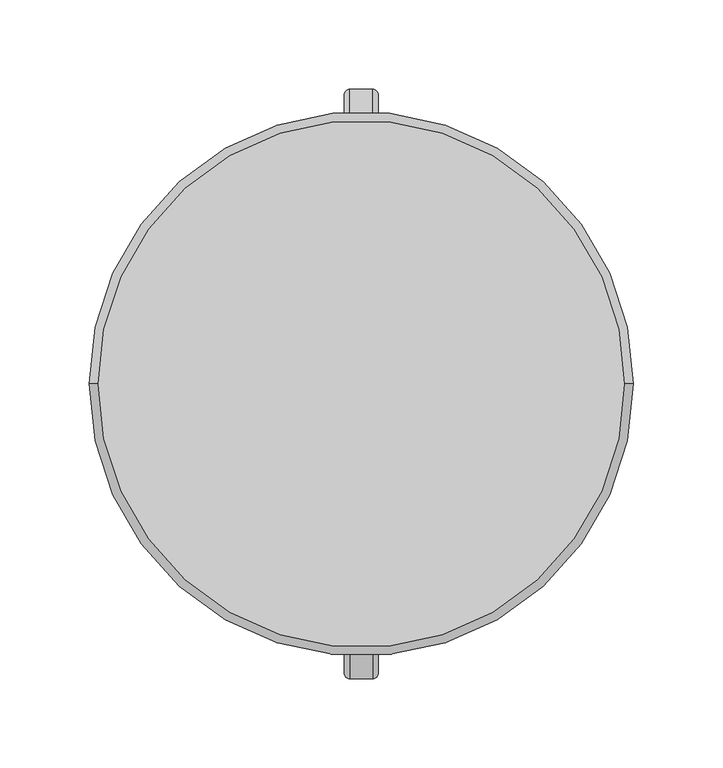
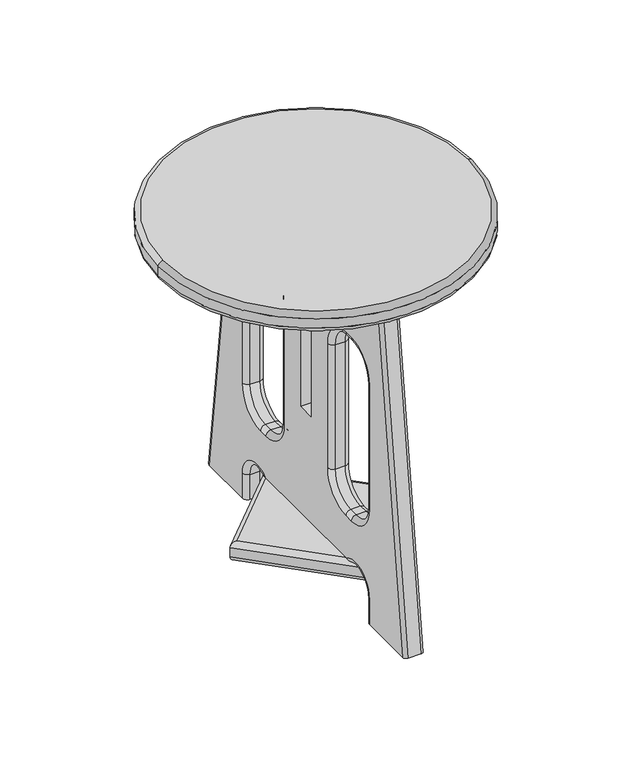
"""IFC4 building model written with IfcOpenShell, lengths in millimetres: furniture geometry, SSL-Childcraft_Outdoor-Stool : 2161356."""

from ifc_helpers import new_model, si_unit, point, frame, origin, origin_with_axes, place, context, project, spatial, polyline, circle_curve, ellipse_curve, trimmed, source, transform, mapped, element, save
from ifc_brep_helpers import plane_surface, cylinder_surface, revolved_surface, extruded_surface, spline_surface, advanced_brep


def furniture_00084a0a(model_context):
    return source(origin(), model_context, "Body", "AdvancedBrep", [
        advanced_brep(
        [(6.35, 122.2375, 336.55), (9.525, 119.0625, 336.55), (9.525, 161.9274937, 0.0), (6.3524937, 165.1, 0.0), (-6.35, 122.2375, 336.55), (-6.35, 165.1, 0.0), (-9.525, 119.0625, 336.55), (-9.525, 161.925, 0.0), (4.7625, -41.2877, 117.475), (4.7625, -66.675, 92.0877), (9.525, -66.675, 87.3252), (9.525, -36.5252, 117.475), (-4.7625, -41.2877, 117.475), (-4.7625, -66.675, 92.0877), (-9.525, -36.5252, 117.475), (-9.525, -66.675, 87.3252), (9.525, -36.5252, 244.475), (4.7625, -41.2877, 244.475), (-4.7625, -41.2877, 244.475), (-9.525, -36.5252, 244.475), (9.525, -66.675, 274.6248), (4.7625, -66.675, 269.8623), (-4.7625, -66.675, 269.8623), (-9.525, -66.675, 274.6248), (9.525, -76.1873, 274.6248), (4.7625, -76.1873, 269.8623), (-4.7625, -76.1873, 269.8623), (-9.525, -76.1873, 274.6248), (9.525, -106.3498, 244.4623), (4.7625, -101.5873, 244.4623), (-4.7625, -101.5873, 244.4623), (-9.525, -106.3498, 244.4623), (9.525, -106.3498, 117.475), (4.7625, -101.5873, 117.475), (-4.7625, -101.5873, 117.475), (-9.525, -106.3498, 117.475), (9.525, -76.2, 87.3252), (4.7625, -76.2, 92.0877), (-4.7625, -76.2, 92.0877), (-9.525, -76.2, 87.3252), (4.7625, 101.5873, 117.475), (4.7625, 76.2, 92.0877), (9.525, 76.2, 87.3252), (9.525, 106.3498, 117.475), (-4.7625, 101.5873, 117.475), (-4.7625, 76.2, 92.0877), (-9.525, 106.3498, 117.475), (-9.525, 76.2, 87.3252), (9.525, 106.3498, 244.4623), (4.7625, 101.5873, 244.4623), (-4.7625, 101.5873, 244.4623), (-9.525, 106.3498, 244.4623), (9.525, 76.1873, 274.6248), (4.7625, 76.1873, 269.8623), (-4.7625, 76.1873, 269.8623), (-9.525, 76.1873, 274.6248), (9.525, 66.675, 274.6248), (4.7625, 66.675, 269.8623), (-4.7625, 66.675, 269.8623), (-9.525, 66.675, 274.6248), (9.525, 36.5252, 244.475), (4.7625, 41.2877, 244.475), (-4.7625, 41.2877, 244.475), (-9.525, 36.5252, 244.475), (9.525, 36.5252, 117.475), (4.7625, 41.2877, 117.475), (-4.7625, 41.2877, 117.475), (-9.525, 36.5252, 117.475), (9.525, 66.675, 87.3252), (4.7625, 66.675, 92.0877), (-4.7625, 66.675, 92.0877), (-9.525, 66.675, 87.3252), (4.7625, 101.5873, 0.0), (9.525, 106.3498, 0.0), (9.525, 106.3498, 25.4), (4.7625, 101.5873, 25.4), (-4.7625, 101.5873, 0.0), (-4.7625, 101.5873, 25.4), (-9.525, 106.3498, 0.0), (-9.525, 106.3498, 25.4), (-9.525, 68.27012, 44.43984), (-4.7625, 71.12762, 40.62984), (4.7625, 71.12762, 40.62984), (9.525, 68.27012, 44.43984), (9.525, -106.3498, 0.0), (4.7625, -101.5873, 0.0), (4.7625, -101.5873, 25.4), (9.525, -106.3498, 25.4), (-4.7625, -101.5873, 0.0), (-4.7625, -101.5873, 25.4), (-9.525, -106.3498, 0.0), (-9.525, -106.3498, 25.4), (9.525, -68.27012, 44.43984), (4.7625, -71.12762, 40.62984), (-4.7625, -71.12762, 40.62984), (-9.525, -68.27012, 44.43984), (9.525, 101.6, 336.55), (9.525, 82.55, 317.5), (9.525, 9.525, 317.5), (9.525, 9.525, 152.4), (9.525, -9.525, 152.4), (9.525, -9.525, 317.5), (9.525, -82.55, 317.5), (9.525, -101.6, 336.55), (9.525, -119.0625, 336.55), (9.525, -161.925, 0.0), (-9.525, -161.9274937, 0.0), (-9.525, -119.0625, 336.55), (-9.525, -101.6, 336.55), (-9.525, -82.55, 317.5), (-9.525, -9.525, 317.5), (-9.525, -9.525, 152.4), (-9.525, 9.525, 152.4), (-9.525, 9.525, 317.5), (-9.525, 82.55, 317.5), (-9.525, 101.6, 336.55), (-6.35, -122.2375, 336.55), (6.35, -122.2375, 336.55), (6.35, -165.1, 0.0), (-6.3524937, -165.1, 0.0)],
        [
            (0, 1, circle_curve(frame((6.35, 119.0625, 336.55), z_axis=(0.0, 0.0, -1.0), x_axis=(1.0, 0.0, 0.0)), 3.175)),
            (1, 2),
            (2, 3, circle_curve(frame((6.3524937, 161.9274937, 0.0), z_axis=(0.0, 0.0, 1.0), x_axis=(1.0, 0.0, 0.0)), 3.1725063)),
            (3, 0),
            (4, 0),
            (3, 5),
            (5, 4),
            (6, 4, circle_curve(frame((-6.35, 119.0625, 336.55), z_axis=(0.0, 0.0, -1.0), x_axis=(1.0, 0.0, 0.0)), 3.175)),
            (5, 7, circle_curve(frame((-6.35, 161.925, 0.0), z_axis=(0.0, 0.0, 1.0), x_axis=(1.0, 0.0, 0.0)), 3.175)),
            (7, 6),
            (8, 9, circle_curve(frame((4.7625, -66.675, 117.475), z_axis=(-1.0, 0.0, 0.0), x_axis=(0.0, 0.0, -1.0)), 25.3873)),
            (9, 10, circle_curve(frame((4.7625, -66.675, 87.3252), z_axis=(0.0, 1.0, 0.0), x_axis=(0.0, 0.0, 1.0)), 4.7625)),
            (10, 11, circle_curve(frame((9.525, -66.675, 117.475), z_axis=(1.0, 0.0, 0.0), x_axis=(0.0, 0.0, -1.0)), 30.1498)),
            (11, 8, circle_curve(frame((4.7625, -36.5252, 117.475), z_axis=(0.0, 0.0, -1.0), x_axis=(0.0, -1.0, 0.0)), 4.7625)),
            (8, 12),
            (12, 13, circle_curve(frame((-4.7625, -66.675, 117.475), z_axis=(-1.0, 0.0, 0.0), x_axis=(0.0, 0.0, -1.0)), 25.3873)),
            (13, 9),
            (12, 14, circle_curve(frame((-4.7625, -36.5252, 117.475), z_axis=(0.0, 0.0, -1.0), x_axis=(0.0, -1.0, 0.0)), 4.7625)),
            (14, 15, circle_curve(frame((-9.525, -66.675, 117.475), z_axis=(-1.0, 0.0, 0.0), x_axis=(0.0, 0.0, -1.0)), 30.1498)),
            (15, 13, circle_curve(frame((-4.7625, -66.675, 87.3252), z_axis=(0.0, 1.0, 0.0), x_axis=(0.0, 0.0, 1.0)), 4.7625)),
            (11, 16),
            (16, 17, circle_curve(frame((4.7625, -36.5252, 244.475), z_axis=(0.0, 0.0, -1.0), x_axis=(0.0, -1.0, 0.0)), 4.7625)),
            (17, 8),
            (17, 18),
            (18, 12),
            (18, 19, circle_curve(frame((-4.7625, -36.5252, 244.475), z_axis=(0.0, 0.0, -1.0), x_axis=(0.0, -1.0, 0.0)), 4.7625)),
            (19, 14),
            (16, 20, circle_curve(frame((9.525, -66.675, 244.475), z_axis=(1.0, 0.0, 0.0), x_axis=(0.0, 1.0, 0.0)), 30.1498)),
            (20, 21, circle_curve(frame((4.7625, -66.675, 274.6248), z_axis=(0.0, 1.0, 0.0), x_axis=(0.0, 0.0, -1.0)), 4.7625)),
            (21, 17, circle_curve(frame((4.7625, -66.675, 244.475), z_axis=(-1.0, 0.0, 0.0), x_axis=(0.0, 1.0, 0.0)), 25.3873)),
            (21, 22),
            (22, 18, circle_curve(frame((-4.7625, -66.675, 244.475), z_axis=(-1.0, 0.0, 0.0), x_axis=(0.0, 1.0, 0.0)), 25.3873)),
            (22, 23, circle_curve(frame((-4.7625, -66.675, 274.6248), z_axis=(0.0, 1.0, 0.0), x_axis=(0.0, 0.0, -1.0)), 4.7625)),
            (23, 19, circle_curve(frame((-9.525, -66.675, 244.475), z_axis=(-1.0, 0.0, 0.0), x_axis=(0.0, 1.0, 0.0)), 30.1498)),
            (20, 24),
            (24, 25, circle_curve(frame((4.7625, -76.1873, 274.6248), z_axis=(0.0, 1.0, 0.0), x_axis=(0.0, 0.0, -1.0)), 4.7625)),
            (25, 21),
            (25, 26),
            (26, 22),
            (26, 27, circle_curve(frame((-4.7625, -76.1873, 274.6248), z_axis=(0.0, 1.0, 0.0), x_axis=(0.0, 0.0, -1.0)), 4.7625)),
            (27, 23),
            (24, 28, circle_curve(frame((9.525, -76.1873, 244.4623), z_axis=(1.0, 0.0, 0.0), x_axis=(0.0, 0.0, 1.0)), 30.1625)),
            (28, 29, circle_curve(frame((4.7625, -106.3498, 244.4623), z_axis=(0.0, 0.0, 1.0), x_axis=(0.0, 1.0, 0.0)), 4.7625)),
            (29, 25, circle_curve(frame((4.7625, -76.1873, 244.4623), z_axis=(-1.0, 0.0, 0.0), x_axis=(0.0, 0.0, 1.0)), 25.4)),
            (29, 30),
            (30, 26, circle_curve(frame((-4.7625, -76.1873, 244.4623), z_axis=(-1.0, 0.0, 0.0), x_axis=(0.0, 0.0, 1.0)), 25.4)),
            (30, 31, circle_curve(frame((-4.7625, -106.3498, 244.4623), z_axis=(0.0, 0.0, 1.0), x_axis=(0.0, 1.0, 0.0)), 4.7625)),
            (31, 27, circle_curve(frame((-9.525, -76.1873, 244.4623), z_axis=(-1.0, 0.0, 0.0), x_axis=(0.0, 0.0, 1.0)), 30.1625)),
            (28, 32),
            (32, 33, circle_curve(frame((4.7625, -106.3498, 117.475), z_axis=(0.0, 0.0, 1.0), x_axis=(0.0, 1.0, 0.0)), 4.7625)),
            (33, 29),
            (33, 34),
            (34, 30),
            (34, 35, circle_curve(frame((-4.7625, -106.3498, 117.475), z_axis=(0.0, 0.0, 1.0), x_axis=(0.0, 1.0, 0.0)), 4.7625)),
            (35, 31),
            (32, 36, circle_curve(frame((9.525, -76.2, 117.475), z_axis=(1.0, 0.0, 0.0), x_axis=(0.0, -1.0, 0.0)), 30.1498)),
            (36, 37, circle_curve(frame((4.7625, -76.2, 87.3252), z_axis=(0.0, -1.0, 0.0), x_axis=(0.0, 0.0, 1.0)), 4.7625)),
            (37, 33, circle_curve(frame((4.7625, -76.2, 117.475), z_axis=(-1.0, 0.0, 0.0), x_axis=(0.0, -1.0, 0.0)), 25.3873)),
            (37, 38),
            (38, 34, circle_curve(frame((-4.7625, -76.2, 117.475), z_axis=(-1.0, 0.0, 0.0), x_axis=(0.0, -1.0, 0.0)), 25.3873)),
            (38, 39, circle_curve(frame((-4.7625, -76.2, 87.3252), z_axis=(0.0, -1.0, 0.0), x_axis=(0.0, 0.0, 1.0)), 4.7625)),
            (39, 35, circle_curve(frame((-9.525, -76.2, 117.475), z_axis=(-1.0, 0.0, 0.0), x_axis=(0.0, -1.0, 0.0)), 30.1498)),
            (9, 37),
            (36, 10),
            (13, 38),
            (15, 39),
            (40, 41, circle_curve(frame((4.7625, 76.2, 117.475), z_axis=(-1.0, 0.0, 0.0), x_axis=(0.0, 0.0, -1.0)), 25.3873)),
            (41, 42, circle_curve(frame((4.7625, 76.2, 87.3252), z_axis=(0.0, 1.0, 0.0), x_axis=(0.0, 0.0, 1.0)), 4.7625)),
            (42, 43, circle_curve(frame((9.525, 76.2, 117.475), z_axis=(1.0, 0.0, 0.0), x_axis=(0.0, 0.0, -1.0)), 30.1498)),
            (43, 40, circle_curve(frame((4.7625, 106.3498, 117.475), z_axis=(0.0, 0.0, -1.0), x_axis=(0.0, -1.0, 0.0)), 4.7625)),
            (40, 44),
            (44, 45, circle_curve(frame((-4.7625, 76.2, 117.475), z_axis=(-1.0, 0.0, 0.0), x_axis=(0.0, 0.0, -1.0)), 25.3873)),
            (45, 41),
            (44, 46, circle_curve(frame((-4.7625, 106.3498, 117.475), z_axis=(0.0, 0.0, -1.0), x_axis=(0.0, -1.0, 0.0)), 4.7625)),
            (46, 47, circle_curve(frame((-9.525, 76.2, 117.475), z_axis=(-1.0, 0.0, 0.0), x_axis=(0.0, 0.0, -1.0)), 30.1498)),
            (47, 45, circle_curve(frame((-4.7625, 76.2, 87.3252), z_axis=(0.0, 1.0, 0.0), x_axis=(0.0, 0.0, 1.0)), 4.7625)),
            (43, 48),
            (48, 49, circle_curve(frame((4.7625, 106.3498, 244.4623), z_axis=(0.0, 0.0, -1.0), x_axis=(0.0, -1.0, 0.0)), 4.7625)),
            (49, 40),
            (49, 50),
            (50, 44),
            (50, 51, circle_curve(frame((-4.7625, 106.3498, 244.4623), z_axis=(0.0, 0.0, -1.0), x_axis=(0.0, -1.0, 0.0)), 4.7625)),
            (51, 46),
            (48, 52, circle_curve(frame((9.525, 76.1873, 244.4623), z_axis=(1.0, 0.0, 0.0), x_axis=(0.0, 1.0, 0.0)), 30.1625)),
            (52, 53, circle_curve(frame((4.7625, 76.1873, 274.6248), z_axis=(0.0, 1.0, 0.0), x_axis=(0.0, 0.0, -1.0)), 4.7625)),
            (53, 49, circle_curve(frame((4.7625, 76.1873, 244.4623), z_axis=(-1.0, 0.0, 0.0), x_axis=(0.0, 1.0, 0.0)), 25.4)),
            (53, 54),
            (54, 50, circle_curve(frame((-4.7625, 76.1873, 244.4623), z_axis=(-1.0, 0.0, 0.0), x_axis=(0.0, 1.0, 0.0)), 25.4)),
            (54, 55, circle_curve(frame((-4.7625, 76.1873, 274.6248), z_axis=(0.0, 1.0, 0.0), x_axis=(0.0, 0.0, -1.0)), 4.7625)),
            (55, 51, circle_curve(frame((-9.525, 76.1873, 244.4623), z_axis=(-1.0, 0.0, 0.0), x_axis=(0.0, 1.0, 0.0)), 30.1625)),
            (52, 56),
            (56, 57, circle_curve(frame((4.7625, 66.675, 274.6248), z_axis=(0.0, 1.0, 0.0), x_axis=(0.0, 0.0, -1.0)), 4.7625)),
            (57, 53),
            (57, 58),
            (58, 54),
            (58, 59, circle_curve(frame((-4.7625, 66.675, 274.6248), z_axis=(0.0, 1.0, 0.0), x_axis=(0.0, 0.0, -1.0)), 4.7625)),
            (59, 55),
            (56, 60, circle_curve(frame((9.525, 66.675, 244.475), z_axis=(1.0, 0.0, 0.0), x_axis=(0.0, 0.0, 1.0)), 30.1498)),
            (60, 61, circle_curve(frame((4.7625, 36.5252, 244.475), z_axis=(0.0, 0.0, 1.0), x_axis=(0.0, 1.0, 0.0)), 4.7625)),
            (61, 57, circle_curve(frame((4.7625, 66.675, 244.475), z_axis=(-1.0, 0.0, 0.0), x_axis=(0.0, 0.0, 1.0)), 25.3873)),
            (61, 62),
            (62, 58, circle_curve(frame((-4.7625, 66.675, 244.475), z_axis=(-1.0, 0.0, 0.0), x_axis=(0.0, 0.0, 1.0)), 25.3873)),
            (62, 63, circle_curve(frame((-4.7625, 36.5252, 244.475), z_axis=(0.0, 0.0, 1.0), x_axis=(0.0, 1.0, 0.0)), 4.7625)),
            (63, 59, circle_curve(frame((-9.525, 66.675, 244.475), z_axis=(-1.0, 0.0, 0.0), x_axis=(0.0, 0.0, 1.0)), 30.1498)),
            (60, 64),
            (64, 65, circle_curve(frame((4.7625, 36.5252, 117.475), z_axis=(0.0, 0.0, 1.0), x_axis=(0.0, 1.0, 0.0)), 4.7625)),
            (65, 61),
            (65, 66),
            (66, 62),
            (66, 67, circle_curve(frame((-4.7625, 36.5252, 117.475), z_axis=(0.0, 0.0, 1.0), x_axis=(0.0, 1.0, 0.0)), 4.7625)),
            (67, 63),
            (64, 68, circle_curve(frame((9.525, 66.675, 117.475), z_axis=(1.0, 0.0, 0.0), x_axis=(0.0, -1.0, 0.0)), 30.1498)),
            (68, 69, circle_curve(frame((4.7625, 66.675, 87.3252), z_axis=(0.0, -1.0, 0.0), x_axis=(0.0, 0.0, 1.0)), 4.7625)),
            (69, 65, circle_curve(frame((4.7625, 66.675, 117.475), z_axis=(-1.0, 0.0, 0.0), x_axis=(0.0, -1.0, 0.0)), 25.3873)),
            (69, 70),
            (70, 66, circle_curve(frame((-4.7625, 66.675, 117.475), z_axis=(-1.0, 0.0, 0.0), x_axis=(0.0, -1.0, 0.0)), 25.3873)),
            (70, 71, circle_curve(frame((-4.7625, 66.675, 87.3252), z_axis=(0.0, -1.0, 0.0), x_axis=(0.0, 0.0, 1.0)), 4.7625)),
            (71, 67, circle_curve(frame((-9.525, 66.675, 117.475), z_axis=(-1.0, 0.0, 0.0), x_axis=(0.0, -1.0, 0.0)), 30.1498)),
            (41, 69),
            (68, 42),
            (45, 70),
            (47, 71),
            (72, 73, circle_curve(frame((4.7625, 106.3498, 0.0), z_axis=(0.0, 0.0, 1.0), x_axis=(0.0, -1.0, 0.0)), 4.7625)),
            (73, 74),
            (74, 75, circle_curve(frame((4.7625, 106.3498, 25.4), z_axis=(0.0, 0.0, -1.0), x_axis=(0.0, -1.0, 0.0)), 4.7625)),
            (75, 72),
            (76, 72),
            (75, 77),
            (77, 76),
            (78, 76, circle_curve(frame((-4.7625, 106.3498, 0.0), z_axis=(0.0, 0.0, 1.0), x_axis=(0.0, -1.0, 0.0)), 4.7625)),
            (77, 79, circle_curve(frame((-4.7625, 106.3498, 25.4), z_axis=(0.0, 0.0, -1.0), x_axis=(0.0, -1.0, 0.0)), 4.7625)),
            (79, 78),
            (80, 81, circle_curve(frame((-4.7625, 68.27012, 44.43984), z_axis=(0.0, -0.8000000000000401, -0.5999999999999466), x_axis=(0.0, 0.5999999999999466, -0.8000000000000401)), 4.7625)),
            (81, 82),
            (82, 83, circle_curve(frame((4.7625, 68.27012, 44.43984), z_axis=(0.0, -0.8000000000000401, -0.5999999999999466), x_axis=(0.0, 0.5999999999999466, -0.8000000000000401)), 4.7625)),
            (83, 80),
            (74, 83, circle_curve(frame((9.525, 82.55, 25.4), z_axis=(1.0, 0.0, 0.0), x_axis=(0.0, 1.0, 0.0)), 23.7998)),
            (82, 75, circle_curve(frame((4.7625, 82.55, 25.4), z_axis=(-1.0, 0.0, 0.0), x_axis=(0.0, 1.0, 0.0)), 19.0373)),
            (81, 77, circle_curve(frame((-4.7625, 82.55, 25.4), z_axis=(-1.0, 0.0, 0.0), x_axis=(0.0, 1.0, 0.0)), 19.0373)),
            (80, 79, circle_curve(frame((-9.525, 82.55, 25.4), z_axis=(-1.0, 0.0, 0.0), x_axis=(0.0, 1.0, 0.0)), 23.7998)),
            (84, 85, circle_curve(frame((4.7625, -106.3498, 0.0), z_axis=(0.0, 0.0, 1.0), x_axis=(0.0, -1.0, 0.0)), 4.7625)),
            (85, 86),
            (86, 87, circle_curve(frame((4.7625, -106.3498, 25.4), z_axis=(0.0, 0.0, -1.0), x_axis=(0.0, -1.0, 0.0)), 4.7625)),
            (87, 84),
            (85, 88),
            (88, 89),
            (89, 86),
            (88, 90, circle_curve(frame((-4.7625, -106.3498, 0.0), z_axis=(0.0, 0.0, 1.0), x_axis=(0.0, -1.0, 0.0)), 4.7625)),
            (90, 91),
            (91, 89, circle_curve(frame((-4.7625, -106.3498, 25.4), z_axis=(0.0, 0.0, -1.0), x_axis=(0.0, -1.0, 0.0)), 4.7625)),
            (92, 93, circle_curve(frame((4.7625, -68.27012, 44.43984), z_axis=(0.0, 0.8000000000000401, -0.5999999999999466), x_axis=(0.0, 0.5999999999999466, 0.8000000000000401)), 4.7625)),
            (93, 94),
            (94, 95, circle_curve(frame((-4.7625, -68.27012, 44.43984), z_axis=(0.0, 0.8000000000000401, -0.5999999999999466), x_axis=(0.0, 0.5999999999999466, 0.8000000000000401)), 4.7625)),
            (95, 92),
            (86, 93, circle_curve(frame((4.7625, -82.55, 25.4), z_axis=(-1.0, 0.0, 0.0), x_axis=(0.0, -1.0, 0.0)), 19.0373)),
            (92, 87, circle_curve(frame((9.525, -82.55, 25.4), z_axis=(1.0, 0.0, 0.0), x_axis=(0.0, -1.0, 0.0)), 23.7998)),
            (89, 94, circle_curve(frame((-4.7625, -82.55, 25.4), z_axis=(-1.0, 0.0, 0.0), x_axis=(0.0, -1.0, 0.0)), 19.0373)),
            (91, 95, circle_curve(frame((-9.525, -82.55, 25.4), z_axis=(-1.0, 0.0, 0.0), x_axis=(0.0, -1.0, 0.0)), 23.7998)),
            (96, 97, circle_curve(frame((9.525, 82.55, 336.55), z_axis=(-1.0, 0.0, 0.0), x_axis=(0.0, 1.0, 0.0)), 19.05)),
            (97, 98),
            (98, 99),
            (99, 100),
            (100, 101),
            (101, 102),
            (102, 103, circle_curve(frame((9.525, -82.55, 336.55), z_axis=(-1.0, 0.0, 0.0), x_axis=(0.0, 1.0, 0.0)), 19.05)),
            (103, 104),
            (104, 105),
            (105, 84),
            (92, 83),
            (73, 2),
            (1, 96),
            (80, 95),
            (90, 106),
            (106, 107),
            (107, 108),
            (108, 109, circle_curve(frame((-9.525, -82.55, 336.55), z_axis=(1.0, 0.0, 0.0), x_axis=(0.0, 1.0, 0.0)), 19.05)),
            (109, 110),
            (110, 111),
            (111, 112),
            (112, 113),
            (113, 114),
            (114, 115, circle_curve(frame((-9.525, 82.55, 336.55), z_axis=(1.0, 0.0, 0.0), x_axis=(0.0, 1.0, 0.0)), 19.05)),
            (115, 6),
            (7, 78),
            (115, 96),
            (114, 97),
            (113, 98),
            (112, 99),
            (111, 100),
            (110, 101),
            (109, 102),
            (108, 103),
            (107, 116, circle_curve(frame((-6.35, -119.0625, 336.55), z_axis=(0.0, 0.0, 1.0), x_axis=(-1.0, 0.0, 0.0)), 3.175)),
            (116, 117),
            (117, 104, circle_curve(frame((6.35, -119.0625, 336.55), z_axis=(0.0, 0.0, 1.0), x_axis=(-1.0, 0.0, 0.0)), 3.175)),
            (105, 118, circle_curve(frame((6.35, -161.925, 0.0), z_axis=(0.0, 0.0, -1.0), x_axis=(-1.0, 0.0, 0.0)), 3.175)),
            (118, 119),
            (119, 106, circle_curve(frame((-6.3524937, -161.9274937, 0.0), z_axis=(0.0, 0.0, -1.0), x_axis=(-1.0, 0.0, 0.0)), 3.1725063)),
            (119, 116),
            (118, 117),
        ],
        [
            spline_surface(2, 1, [[(9.525, 161.9274937, 0.0), (9.525, 119.0625, 336.55)], [(9.525000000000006, 165.10000000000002, 0.0), (9.525000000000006, 122.2375, 336.55)], [(6.3524937, 165.1, 0.0), (6.35, 122.2375, 336.55)]], [3, 3], [2, 2], [0.0, 1.0], [0.0, 1.0], weights=[[1.0, 1.0], [0.7071067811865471, 0.7071067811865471], [1.0, 1.0]]),
            plane_surface(frame((0.0012468, 165.1, 0.0), z_axis=(0.0, 0.9919872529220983, 0.1263379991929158), x_axis=(-1.0, 0.0, 0.0))),
            extruded_surface(trimmed(circle_curve(frame((-6.35, 161.925, 0.0), z_axis=(0.0, 0.0, 1.0), x_axis=(1.0, 0.0, 0.0)), 3.175), [point((-6.35, 165.1, 0.0))], [point((-9.525, 161.925, 0.0))], True, "CARTESIAN"), (0.0, -42.86250000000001, 336.55), 339.26847246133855),
            revolved_surface(trimmed(ellipse_curve(frame((4.7625, -66.675, 87.3252), z_axis=(0.0, -1.0, 0.0), x_axis=(0.0, 0.0, 1.0)), 4.7625, 4.7625), [point((9.525, -66.675, 87.3252))], [point((4.7625, -66.675, 92.0877))], True, "CARTESIAN"), (0.0, -66.675, 117.475), (1.0, 0.0, 0.0)),
            revolved_surface(polyline([(4.7625, -66.675, 92.0877), (-4.7625, -66.675, 92.0877)]), (0.0, -66.675, 117.475), (1.0, 0.0, 0.0)),
            revolved_surface(trimmed(ellipse_curve(frame((-4.7625, -66.675, 87.3252), z_axis=(0.0, -1.0, 0.0), x_axis=(0.0, 0.0, 1.0)), 4.7625, 4.7625), [point((-4.7625, -66.675, 92.0877))], [point((-9.525, -66.675, 87.3252))], True, "CARTESIAN"), (0.0, -66.675, 117.475), (1.0, 0.0, 0.0)),
            cylinder_surface(frame((4.7625, -36.5252, 117.475), z_axis=(0.0, 0.0, -1.0), x_axis=(0.0, -1.0, 0.0)), 4.7625),
            plane_surface(frame((4.7625, -41.2877, 117.475), z_axis=(0.0, -1.0, 0.0), x_axis=(0.0, 0.0, 1.0))),
            cylinder_surface(frame((-4.7625, -36.5252, 117.475), z_axis=(0.0, 0.0, -1.0), x_axis=(0.0, -1.0, 0.0)), 4.7625),
            revolved_surface(trimmed(ellipse_curve(frame((4.7625, -36.5252, 244.475), z_axis=(0.0, 0.0, -1.0), x_axis=(0.0, -1.0, 0.0)), 4.7625, 4.7625), [point((9.525, -36.5252, 244.475))], [point((4.7625, -41.2877, 244.475))], True, "CARTESIAN"), (0.0, -66.675, 244.475), (1.0, 0.0, 0.0)),
            revolved_surface(polyline([(4.7625, -41.2877, 244.475), (-4.7625, -41.2877, 244.475)]), (0.0, -66.675, 244.475), (1.0, 0.0, 0.0)),
            revolved_surface(trimmed(ellipse_curve(frame((-4.7625, -36.5252, 244.475), z_axis=(0.0, 0.0, -1.0), x_axis=(0.0, -1.0, 0.0)), 4.7625, 4.7625), [point((-4.7625, -41.2877, 244.475))], [point((-9.525, -36.5252, 244.475))], True, "CARTESIAN"), (0.0, -66.675, 244.475), (1.0, 0.0, 0.0)),
            cylinder_surface(frame((4.7625, -66.675, 274.6248), z_axis=(0.0, 1.0, 0.0), x_axis=(0.0, 0.0, -1.0)), 4.7625),
            plane_surface(frame((4.7625, -66.675, 269.8623), z_axis=(0.0, 0.0, -1.0), x_axis=(0.0, -1.0, 0.0))),
            cylinder_surface(frame((-4.7625, -66.675, 274.6248), z_axis=(0.0, 1.0, 0.0), x_axis=(0.0, 0.0, -1.0)), 4.7625),
            revolved_surface(trimmed(ellipse_curve(frame((4.7625, -76.1873, 274.6248), z_axis=(0.0, 1.0, 0.0), x_axis=(0.0, 0.0, -1.0)), 4.7625, 4.7625), [point((9.525, -76.1873, 274.6248))], [point((4.7625, -76.1873, 269.8623))], True, "CARTESIAN"), (0.0, -76.1873, 244.4623), (1.0, 0.0, 0.0)),
            revolved_surface(polyline([(4.7625, -76.1873, 269.8623), (-4.7625, -76.1873, 269.8623)]), (0.0, -76.1873, 244.4623), (1.0, 0.0, 0.0)),
            revolved_surface(trimmed(ellipse_curve(frame((-4.7625, -76.1873, 274.6248), z_axis=(0.0, 1.0, 0.0), x_axis=(0.0, 0.0, -1.0)), 4.7625, 4.7625), [point((-4.7625, -76.1873, 269.8623))], [point((-9.525, -76.1873, 274.6248))], True, "CARTESIAN"), (0.0, -76.1873, 244.4623), (1.0, 0.0, 0.0)),
            cylinder_surface(frame((4.7625, -106.3498, 244.4623), z_axis=(0.0, 0.0, 1.0), x_axis=(0.0, 1.0, 0.0)), 4.7625),
            plane_surface(frame((4.7625, -101.5873, 244.4623), z_axis=(0.0, 1.0, 0.0), x_axis=(0.0, 0.0, -1.0))),
            cylinder_surface(frame((-4.7625, -106.3498, 244.4623), z_axis=(0.0, 0.0, 1.0), x_axis=(0.0, 1.0, 0.0)), 4.7625),
            revolved_surface(trimmed(ellipse_curve(frame((4.7625, -106.3498, 117.475), z_axis=(0.0, 0.0, 1.0), x_axis=(0.0, 1.0, 0.0)), 4.7625, 4.7625), [point((9.525, -106.3498, 117.475))], [point((4.7625, -101.5873, 117.475))], True, "CARTESIAN"), (0.0, -76.2, 117.475), (1.0, 0.0, 0.0)),
            revolved_surface(polyline([(4.7625, -101.5873, 117.475), (-4.7625, -101.5873, 117.475)]), (0.0, -76.2, 117.475), (1.0, 0.0, 0.0)),
            revolved_surface(trimmed(ellipse_curve(frame((-4.7625, -106.3498, 117.475), z_axis=(0.0, 0.0, 1.0), x_axis=(0.0, 1.0, 0.0)), 4.7625, 4.7625), [point((-4.7625, -101.5873, 117.475))], [point((-9.525, -106.3498, 117.475))], True, "CARTESIAN"), (0.0, -76.2, 117.475), (1.0, 0.0, 0.0)),
            cylinder_surface(frame((4.7625, -76.2, 87.3252), z_axis=(0.0, -1.0, 0.0), x_axis=(0.0, 0.0, 1.0)), 4.7625),
            plane_surface(frame((4.7625, -76.2, 92.0877), z_axis=(0.0, 0.0, 1.0), x_axis=(0.0, 1.0, 0.0))),
            cylinder_surface(frame((-4.7625, -76.2, 87.3252), z_axis=(0.0, -1.0, 0.0), x_axis=(0.0, 0.0, 1.0)), 4.7625),
            revolved_surface(trimmed(ellipse_curve(frame((4.7625, 76.2, 87.3252), z_axis=(0.0, -1.0, 0.0), x_axis=(0.0, 0.0, 1.0)), 4.7625, 4.7625), [point((9.525, 76.2, 87.3252))], [point((4.7625, 76.2, 92.0877))], True, "CARTESIAN"), (0.0, 76.2, 117.475), (1.0, 0.0, 0.0)),
            revolved_surface(polyline([(4.7625, 76.2, 92.0877), (-4.7625, 76.2, 92.0877)]), (0.0, 76.2, 117.475), (1.0, 0.0, 0.0)),
            revolved_surface(trimmed(ellipse_curve(frame((-4.7625, 76.2, 87.3252), z_axis=(0.0, -1.0, 0.0), x_axis=(0.0, 0.0, 1.0)), 4.7625, 4.7625), [point((-4.7625, 76.2, 92.0877))], [point((-9.525, 76.2, 87.3252))], True, "CARTESIAN"), (0.0, 76.2, 117.475), (1.0, 0.0, 0.0)),
            cylinder_surface(frame((4.7625, 106.3498, 117.475), z_axis=(0.0, 0.0, -1.0), x_axis=(0.0, -1.0, 0.0)), 4.7625),
            plane_surface(frame((4.7625, 101.5873, 117.475), z_axis=(0.0, -1.0, 0.0), x_axis=(0.0, 0.0, 1.0))),
            cylinder_surface(frame((-4.7625, 106.3498, 117.475), z_axis=(0.0, 0.0, -1.0), x_axis=(0.0, -1.0, 0.0)), 4.7625),
            revolved_surface(trimmed(ellipse_curve(frame((4.7625, 106.3498, 244.4623), z_axis=(0.0, 0.0, -1.0), x_axis=(0.0, -1.0, 0.0)), 4.7625, 4.7625), [point((9.525, 106.3498, 244.4623))], [point((4.7625, 101.5873, 244.4623))], True, "CARTESIAN"), (0.0, 76.1873, 244.4623), (1.0, 0.0, 0.0)),
            revolved_surface(polyline([(4.7625, 101.5873, 244.4623), (-4.7625, 101.5873, 244.4623)]), (0.0, 76.1873, 244.4623), (1.0, 0.0, 0.0)),
            revolved_surface(trimmed(ellipse_curve(frame((-4.7625, 106.3498, 244.4623), z_axis=(0.0, 0.0, -1.0), x_axis=(0.0, -1.0, 0.0)), 4.7625, 4.7625), [point((-4.7625, 101.5873, 244.4623))], [point((-9.525, 106.3498, 244.4623))], True, "CARTESIAN"), (0.0, 76.1873, 244.4623), (1.0, 0.0, 0.0)),
            cylinder_surface(frame((4.7625, 76.1873, 274.6248), z_axis=(0.0, 1.0, 0.0), x_axis=(0.0, 0.0, -1.0)), 4.7625),
            plane_surface(frame((4.7625, 76.1873, 269.8623), z_axis=(0.0, 0.0, -1.0), x_axis=(0.0, -1.0, 0.0))),
            cylinder_surface(frame((-4.7625, 76.1873, 274.6248), z_axis=(0.0, 1.0, 0.0), x_axis=(0.0, 0.0, -1.0)), 4.7625),
            revolved_surface(trimmed(ellipse_curve(frame((4.7625, 66.675, 274.6248), z_axis=(0.0, 1.0, 0.0), x_axis=(0.0, 0.0, -1.0)), 4.7625, 4.7625), [point((9.525, 66.675, 274.6248))], [point((4.7625, 66.675, 269.8623))], True, "CARTESIAN"), (0.0, 66.675, 244.475), (1.0, 0.0, 0.0)),
            revolved_surface(polyline([(4.7625, 66.675, 269.8623), (-4.7625, 66.675, 269.8623)]), (0.0, 66.675, 244.475), (1.0, 0.0, 0.0)),
            revolved_surface(trimmed(ellipse_curve(frame((-4.7625, 66.675, 274.6248), z_axis=(0.0, 1.0, 0.0), x_axis=(0.0, 0.0, -1.0)), 4.7625, 4.7625), [point((-4.7625, 66.675, 269.8623))], [point((-9.525, 66.675, 274.6248))], True, "CARTESIAN"), (0.0, 66.675, 244.475), (1.0, 0.0, 0.0)),
            cylinder_surface(frame((4.7625, 36.5252, 244.475), z_axis=(0.0, 0.0, 1.0), x_axis=(0.0, 1.0, 0.0)), 4.7625),
            plane_surface(frame((4.7625, 41.2877, 244.475), z_axis=(0.0, 1.0, 0.0), x_axis=(0.0, 0.0, -1.0))),
            cylinder_surface(frame((-4.7625, 36.5252, 244.475), z_axis=(0.0, 0.0, 1.0), x_axis=(0.0, 1.0, 0.0)), 4.7625),
            revolved_surface(trimmed(ellipse_curve(frame((4.7625, 36.5252, 117.475), z_axis=(0.0, 0.0, 1.0), x_axis=(0.0, 1.0, 0.0)), 4.7625, 4.7625), [point((9.525, 36.5252, 117.475))], [point((4.7625, 41.2877, 117.475))], True, "CARTESIAN"), (0.0, 66.675, 117.475), (1.0, 0.0, 0.0)),
            revolved_surface(polyline([(4.7625, 41.2877, 117.475), (-4.7625, 41.2877, 117.475)]), (0.0, 66.675, 117.475), (1.0, 0.0, 0.0)),
            revolved_surface(trimmed(ellipse_curve(frame((-4.7625, 36.5252, 117.475), z_axis=(0.0, 0.0, 1.0), x_axis=(0.0, 1.0, 0.0)), 4.7625, 4.7625), [point((-4.7625, 41.2877, 117.475))], [point((-9.525, 36.5252, 117.475))], True, "CARTESIAN"), (0.0, 66.675, 117.475), (1.0, 0.0, 0.0)),
            cylinder_surface(frame((4.7625, 66.675, 87.3252), z_axis=(0.0, -1.0, 0.0), x_axis=(0.0, 0.0, 1.0)), 4.7625),
            plane_surface(frame((4.7625, 66.675, 92.0877), z_axis=(0.0, 0.0, 1.0), x_axis=(0.0, 1.0, 0.0))),
            cylinder_surface(frame((-4.7625, 66.675, 87.3252), z_axis=(0.0, -1.0, 0.0), x_axis=(0.0, 0.0, 1.0)), 4.7625),
            cylinder_surface(frame((4.7625, 106.3498, 0.0), z_axis=(0.0, 0.0, -1.0), x_axis=(0.0, -1.0, 0.0)), 4.7625),
            plane_surface(frame((4.7625, 101.5873, 0.0), z_axis=(0.0, -1.0, 0.0), x_axis=(0.0, 0.0, 1.0))),
            cylinder_surface(frame((-4.7625, 106.3498, 0.0), z_axis=(0.0, 0.0, -1.0), x_axis=(0.0, -1.0, 0.0)), 4.7625),
            plane_surface(frame((0.0, 68.2625, 44.45), z_axis=(0.0, -0.8000000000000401, -0.5999999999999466), x_axis=(1.0, 0.0, 0.0))),
            revolved_surface(trimmed(ellipse_curve(frame((4.7625, 106.3498, 25.4), z_axis=(0.0, 0.0, -1.0), x_axis=(0.0, -1.0, 0.0)), 4.7625, 4.7625), [point((9.525, 106.3498, 25.4))], [point((4.7625, 101.5873, 25.4))], True, "CARTESIAN"), (0.0, 82.55, 25.4), (1.0, 0.0, 0.0)),
            revolved_surface(polyline([(4.7625, 101.5873, 25.4), (-4.7625, 101.5873, 25.4)]), (0.0, 82.55, 25.4), (1.0, 0.0, 0.0)),
            revolved_surface(trimmed(ellipse_curve(frame((-4.7625, 106.3498, 25.4), z_axis=(0.0, 0.0, -1.0), x_axis=(0.0, -1.0, 0.0)), 4.7625, 4.7625), [point((-4.7625, 101.5873, 25.4))], [point((-9.525, 106.3498, 25.4))], True, "CARTESIAN"), (0.0, 82.55, 25.4), (1.0, 0.0, 0.0)),
            cylinder_surface(frame((4.7625, -106.3498, 0.0), z_axis=(0.0, 0.0, -1.0), x_axis=(0.0, -1.0, 0.0)), 4.7625),
            plane_surface(frame((-4.7625, -101.5873, 0.0), z_axis=(0.0, 1.0, 0.0), x_axis=(0.0, 0.0, 1.0))),
            cylinder_surface(frame((-4.7625, -106.3498, 0.0), z_axis=(0.0, 0.0, -1.0), x_axis=(0.0, -1.0, 0.0)), 4.7625),
            plane_surface(frame((0.0, -68.2625, 44.45), z_axis=(0.0, 0.8000000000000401, -0.5999999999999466), x_axis=(1.0, 0.0, 0.0))),
            revolved_surface(trimmed(ellipse_curve(frame((4.7625, -106.3498, 25.4), z_axis=(0.0, 0.0, -1.0), x_axis=(0.0, -1.0, 0.0)), 4.7625, 4.7625), [point((4.7625, -101.5873, 25.4))], [point((9.525, -106.3498, 25.4))], True, "CARTESIAN"), (0.0, -82.55, 25.4), (-1.0, 0.0, 0.0)),
            revolved_surface(polyline([(-4.7625, -101.5873, 25.4), (4.7625, -101.5873, 25.4)]), (0.0, -82.55, 25.4), (-1.0, 0.0, 0.0)),
            revolved_surface(trimmed(ellipse_curve(frame((-4.7625, -106.3498, 25.4), z_axis=(0.0, 0.0, -1.0), x_axis=(0.0, -1.0, 0.0)), 4.7625, 4.7625), [point((-9.525, -106.3498, 25.4))], [point((-4.7625, -101.5873, 25.4))], True, "CARTESIAN"), (0.0, -82.55, 25.4), (-1.0, 0.0, 0.0)),
            plane_surface(frame((9.525, 116.68125, 336.55), z_axis=(1.0000000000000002, 0.0, 0.0), x_axis=(0.0, -0.12633799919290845, 0.9919872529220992))),
            plane_surface(frame((-9.525, 116.68125, 336.55), z_axis=(-1.0000000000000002, 0.0, 0.0), x_axis=(0.0, 0.12633799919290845, -0.9919872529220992))),
            plane_surface(frame((9.525, 116.68125, 336.55), z_axis=(0.0, 0.0, 1.0), x_axis=(-1.0, 0.0, 0.0))),
            revolved_surface(polyline([(-9.525, 101.6, 336.55), (9.525, 101.6, 336.55)]), (-9.525, 82.55, 336.55), (-1.0, 0.0, 0.0)),
            plane_surface(frame((9.525, 82.55, 317.5), z_axis=(0.0, 0.0, 1.0), x_axis=(-1.0, 0.0, 0.0))),
            plane_surface(frame((9.525, 9.525, 317.5), z_axis=(0.0, -1.0, 0.0), x_axis=(-1.0, 0.0, 0.0))),
            plane_surface(frame((9.525, 9.525, 152.4), z_axis=(0.0, 0.0, 1.0), x_axis=(-1.0, 0.0, 0.0))),
            plane_surface(frame((9.525, -9.525, 152.4), z_axis=(0.0, 1.0, 0.0), x_axis=(-1.0, 0.0, 0.0))),
            plane_surface(frame((9.525, -9.525, 317.5), z_axis=(0.0, 0.0, 1.0), x_axis=(-1.0, 0.0, 0.0))),
            revolved_surface(polyline([(-9.525, -63.5, 336.55), (9.525, -63.5, 336.55)]), (-9.525, -82.55, 336.55), (-1.0, 0.0, 0.0)),
            plane_surface(frame((9.525, -101.6, 336.55), z_axis=(0.0, 0.0, 1.0), x_axis=(-1.0, 0.0, 0.0))),
            plane_surface(frame((9.525, -159.54375, 0.0), z_axis=(0.0, 0.0, -1.0), x_axis=(-1.0, 0.0, 0.0))),
            plane_surface(frame((9.525, -68.2625, 44.45), z_axis=(0.0, 0.0, -1.0), x_axis=(-1.0, 0.0, 0.0))),
            plane_surface(frame((9.525, 106.3625, 0.0), z_axis=(0.0, 0.0, -1.0), x_axis=(-1.0, 0.0, 0.0))),
            spline_surface(2, 1, [[(-9.525, -161.9274937, 0.0), (-9.525, -119.0625, 336.55)], [(-9.525000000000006, -165.10000000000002, 0.0), (-9.525000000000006, -122.2375, 336.55)], [(-6.3524937, -165.1, 0.0), (-6.35, -122.2375, 336.55)]], [3, 3], [2, 2], [0.0, 1.0], [0.0, 1.0], weights=[[1.0, 1.0], [0.7071067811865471, 0.7071067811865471], [1.0, 1.0]]),
            plane_surface(frame((-0.0012468, -165.1, 0.0), z_axis=(0.0, -0.9919872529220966, 0.12633799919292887), x_axis=(1.0, 0.0, 0.0))),
            extruded_surface(trimmed(circle_curve(frame((6.35, -161.925, 0.0), z_axis=(0.0, 0.0, 1.0), x_axis=(-1.0, 0.0, 0.0)), 3.175), [point((6.35, -165.1, 0.0))], [point((9.525, -161.925, 0.0))], True, "CARTESIAN"), (0.0, 42.86250000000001, 336.55), 339.26847246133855),
        ],
        [
            (0, [[1, 2, 3, 4]]),
            (1, [[5, -4, 6, 7]]),
            (2, [[8, -7, 9, 10]]),
            (3, [[11, 12, 13, 14]]),
            (4, [[-11, 15, 16, 17]]),
            (5, [[-16, 18, 19, 20]]),
            (6, [[-14, 21, 22, 23]]),
            (7, [[-15, -23, 24, 25]]),
            (8, [[-18, -25, 26, 27]]),
            (9, [[-22, 28, 29, 30]]),
            (10, [[-24, -30, 31, 32]]),
            (11, [[-26, -32, 33, 34]]),
            (12, [[-29, 35, 36, 37]]),
            (13, [[-31, -37, 38, 39]]),
            (14, [[-33, -39, 40, 41]]),
            (15, [[-36, 42, 43, 44]]),
            (16, [[-38, -44, 45, 46]]),
            (17, [[-40, -46, 47, 48]]),
            (18, [[-43, 49, 50, 51]]),
            (19, [[-45, -51, 52, 53]]),
            (20, [[-47, -53, 54, 55]]),
            (21, [[-50, 56, 57, 58]]),
            (22, [[-52, -58, 59, 60]]),
            (23, [[-54, -60, 61, 62]]),
            (24, [[-12, 63, -57, 64]]),
            (25, [[-17, 65, -59, -63]]),
            (26, [[-20, 66, -61, -65]]),
            (27, [[67, 68, 69, 70]]),
            (28, [[-67, 71, 72, 73]]),
            (29, [[-72, 74, 75, 76]]),
            (30, [[-70, 77, 78, 79]]),
            (31, [[-71, -79, 80, 81]]),
            (32, [[-74, -81, 82, 83]]),
            (33, [[-78, 84, 85, 86]]),
            (34, [[-80, -86, 87, 88]]),
            (35, [[-82, -88, 89, 90]]),
            (36, [[-85, 91, 92, 93]]),
            (37, [[-87, -93, 94, 95]]),
            (38, [[-89, -95, 96, 97]]),
            (39, [[-92, 98, 99, 100]]),
            (40, [[-94, -100, 101, 102]]),
            (41, [[-96, -102, 103, 104]]),
            (42, [[-99, 105, 106, 107]]),
            (43, [[-101, -107, 108, 109]]),
            (44, [[-103, -109, 110, 111]]),
            (45, [[-106, 112, 113, 114]]),
            (46, [[-108, -114, 115, 116]]),
            (47, [[-110, -116, 117, 118]]),
            (48, [[-68, 119, -113, 120]]),
            (49, [[-73, 121, -115, -119]]),
            (50, [[-76, 122, -117, -121]]),
            (51, [[123, 124, 125, 126]]),
            (52, [[127, -126, 128, 129]]),
            (53, [[130, -129, 131, 132]]),
            (54, [[133, 134, 135, 136]]),
            (55, [[-125, 137, -135, 138]]),
            (56, [[-128, -138, -134, 139]]),
            (57, [[-131, -139, -133, 140]]),
            (58, [[141, 142, 143, 144]]),
            (59, [[145, 146, 147, -142]]),
            (60, [[148, 149, 150, -146]]),
            (61, [[151, 152, 153, 154]]),
            (62, [[-143, 155, -151, 156]]),
            (63, [[-147, 157, -152, -155]]),
            (64, [[-150, 158, -153, -157]]),
            (65, [[159, 160, 161, 162, 163, 164, 165, 166, 167, 168, -144, -156, 169, -137, -124, 170, -2, 171], [-69, -120, -112, -105, -98, -91, -84, -77], [-13, -64, -56, -49, -42, -35, -28, -21]]),
            (66, [[172, -158, -149, 173, 174, 175, 176, 177, 178, 179, 180, 181, 182, 183, -10, 184, -132, -140], [-75, -83, -90, -97, -104, -111, -118, -122], [-19, -27, -34, -41, -48, -55, -62, -66]]),
            (67, [[185, -171, -1, -5, -8, -183]]),
            (68, [[-159, -185, -182, 186]]),
            (69, [[-160, -186, -181, 187]]),
            (70, [[-161, -187, -180, 188]]),
            (71, [[-162, -188, -179, 189]]),
            (72, [[-163, -189, -178, 190]]),
            (73, [[-164, -190, -177, 191]]),
            (74, [[-165, -191, -176, 192]]),
            (75, [[-166, -192, -175, 193, 194, 195]]),
            (76, [[-173, -148, -145, -141, -168, 196, 197, 198]]),
            (77, [[-169, -154, -172, -136]]),
            (78, [[-9, -6, -3, -170, -123, -127, -130, -184]]),
            (79, [[-193, -174, -198, 199]]),
            (80, [[-194, -199, -197, 200]]),
            (81, [[-195, -200, -196, -167]]),
        ],
    ),
        advanced_brep(
        [(0.0, 83.0673691, 30.1625), (0.0, 83.0673691, 39.6875), (83.0673691, 0.0, 39.6875), (83.0673691, 0.0, 30.1625), (0.0, -83.0673691, 39.6875), (0.0, -83.0673691, 30.1625), (-83.0673691, 0.0, 39.6875), (-83.0673691, 0.0, 30.1625), (0.0, 76.332177, 44.45), (-76.332177, 0.0, 44.45), (0.0, -76.332177, 44.45), (76.332177, 0.0, 44.45), (76.332177, 0.0, 25.4), (0.0, -76.332177, 25.4), (-76.332177, 0.0, 25.4), (0.0, 76.332177, 25.4)],
        [
            (0, 1),
            (1, 2),
            (2, 3),
            (3, 0),
            (2, 4),
            (4, 5),
            (5, 3),
            (4, 6),
            (6, 7),
            (7, 5),
            (8, 9),
            (9, 10),
            (10, 11),
            (11, 8),
            (0, 7),
            (6, 1),
            (12, 13),
            (13, 14),
            (14, 15),
            (15, 12),
            (1, 8, ellipse_curve(frame((0.0, 76.332177, 39.6875), z_axis=(1.0, 0.0, 0.0), x_axis=(0.0, 1.0, 0.0)), 6.7351921, 4.7625)),
            (11, 2, ellipse_curve(frame((76.332177, 0.0, 39.6875), z_axis=(0.0, 1.0, 0.0), x_axis=(-1.0, 0.0, 0.0)), 6.7351921, 4.7625)),
            (3, 12, ellipse_curve(frame((76.332177, 0.0, 30.1625), z_axis=(0.0, 1.0, 0.0), x_axis=(-1.0, 0.0, 0.0)), 6.7351921, 4.7625)),
            (15, 0, ellipse_curve(frame((0.0, 76.332177, 30.1625), z_axis=(1.0, 0.0, 0.0), x_axis=(0.0, 1.0, 0.0)), 6.7351921, 4.7625)),
            (10, 4, ellipse_curve(frame((0.0, -76.332177, 39.6875), z_axis=(1.0, 0.0, 0.0), x_axis=(0.0, 1.0, 0.0)), 6.7351921, 4.7625)),
            (5, 13, ellipse_curve(frame((0.0, -76.332177, 30.1625), z_axis=(1.0, 0.0, 0.0), x_axis=(0.0, 1.0, 0.0)), 6.7351921, 4.7625)),
            (9, 6, ellipse_curve(frame((-76.332177, 0.0, 39.6875), z_axis=(0.0, -1.0, 0.0), x_axis=(1.0, 0.0, 0.0)), 6.7351921, 4.7625)),
            (7, 14, ellipse_curve(frame((-76.332177, 0.0, 30.1625), z_axis=(0.0, -1.0, 0.0), x_axis=(1.0, 0.0, 0.0)), 6.7351921, 4.7625)),
        ],
        [
            plane_surface(frame((0.0, 83.0673691, 39.6875), z_axis=(0.7071067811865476, 0.7071067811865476, 0.0), x_axis=(0.7071067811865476, -0.7071067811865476, 0.0))),
            plane_surface(frame((83.0673691, 0.0, 39.6875), z_axis=(0.7071067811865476, -0.7071067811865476, 0.0), x_axis=(-0.7071067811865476, -0.7071067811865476, 0.0))),
            plane_surface(frame((0.0, -83.0673691, 39.6875), z_axis=(-0.7071067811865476, -0.7071067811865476, 0.0), x_axis=(-0.7071067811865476, 0.7071067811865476, 0.0))),
            plane_surface(frame((-75.1916845, 0.0, 44.45), z_axis=(0.0, 0.0, 1.0000000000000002), x_axis=(0.7071067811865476, 0.7071067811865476, 0.0))),
            plane_surface(frame((-83.0673691, 0.0, 39.6875), z_axis=(-0.7071067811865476, 0.7071067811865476, 0.0), x_axis=(0.7071067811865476, 0.7071067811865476, 0.0))),
            plane_surface(frame((-76.332177, 0.0, 25.4), z_axis=(0.0, 0.0, -1.0), x_axis=(0.7071067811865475, 0.7071067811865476, 0.0))),
            cylinder_surface(frame((-3.367596, 79.6997731, 39.6875), z_axis=(-0.7071067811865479, 0.707106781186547, 0.0), x_axis=(0.707106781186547, 0.7071067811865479, 0.0)), 4.7625),
            cylinder_surface(frame((-3.367596, 79.6997731, 30.1625), z_axis=(-0.7071067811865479, 0.707106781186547, 0.0), x_axis=(0.707106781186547, 0.7071067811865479, 0.0)), 4.7625),
            cylinder_surface(frame((79.6997731, 3.367596, 39.6875), z_axis=(0.7071067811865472, 0.7071067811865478, 0.0), x_axis=(0.7071067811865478, -0.7071067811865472, 0.0)), 4.7625),
            cylinder_surface(frame((79.6997731, 3.367596, 30.1625), z_axis=(0.7071067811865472, 0.7071067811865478, 0.0), x_axis=(0.7071067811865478, -0.7071067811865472, 0.0)), 4.7625),
            cylinder_surface(frame((3.367596, -79.6997731, 39.6875), z_axis=(0.7071067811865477, -0.7071067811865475, 0.0), x_axis=(-0.7071067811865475, -0.7071067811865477, 0.0)), 4.7625),
            cylinder_surface(frame((3.367596, -79.6997731, 30.1625), z_axis=(0.7071067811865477, -0.7071067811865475, 0.0), x_axis=(-0.7071067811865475, -0.7071067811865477, 0.0)), 4.7625),
            cylinder_surface(frame((-79.6997731, -3.367596, 39.6875), z_axis=(-0.7071067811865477, -0.7071067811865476, 0.0), x_axis=(-0.7071067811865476, 0.7071067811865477, 0.0)), 4.7625),
            cylinder_surface(frame((-79.6997731, -3.367596, 30.1625), z_axis=(-0.7071067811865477, -0.7071067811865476, 0.0), x_axis=(-0.7071067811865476, 0.7071067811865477, 0.0)), 4.7625),
        ],
        [
            (0, [[1, 2, 3, 4]]),
            (1, [[-3, 5, 6, 7]]),
            (2, [[-6, 8, 9, 10]]),
            (3, [[11, 12, 13, 14]]),
            (4, [[-1, 15, -9, 16]]),
            (5, [[17, 18, 19, 20]]),
            (6, [[-2, 21, -14, 22]]),
            (7, [[-4, 23, -20, 24]]),
            (8, [[-5, -22, -13, 25]]),
            (9, [[-7, 26, -17, -23]]),
            (10, [[-8, -25, -12, 27]]),
            (11, [[-10, 28, -18, -26]]),
            (12, [[-11, -21, -16, -27]]),
            (13, [[-15, -24, -19, -28]]),
        ],
    ),
        advanced_brep(
        [(152.4, 0.0, 341.3252), (-152.4, 0.0, 341.3252), (-147.6248, 0.0, 336.55), (147.6248, 0.0, 336.55), (152.4, 0.0, 350.8553465), (-152.4, 0.0, 350.8553465), (147.6553465, 0.0, 355.6), (-147.6553465, 0.0, 355.6)],
        [
            (0, 1, circle_curve(frame((0.0, 0.0, 341.3252), z_axis=(0.0, 0.0, -1.0), x_axis=(-1.0, 0.0, 0.0)), 152.4)),
            (1, 2, circle_curve(frame((-147.6248, 0.0, 341.3252), z_axis=(0.0, -1.0, 0.0), x_axis=(1.0, 0.0, 0.0)), 4.7752)),
            (2, 3, circle_curve(frame((0.0, 0.0, 336.55), z_axis=(0.0, 0.0, 1.0), x_axis=(-1.0, 0.0, 0.0)), 147.6248)),
            (3, 0, circle_curve(frame((147.6248, 0.0, 341.3252), z_axis=(0.0, -1.0, 0.0), x_axis=(-1.0, 0.0, 0.0)), 4.7752)),
            (0, 4),
            (4, 5, circle_curve(frame((0.0, 0.0, 350.8553465), z_axis=(0.0, 0.0, -1.0), x_axis=(-1.0, 0.0, 0.0)), 152.4)),
            (5, 1),
            (4, 6, circle_curve(frame((147.6553465, 0.0, 350.8553465), z_axis=(0.0, -1.0, 0.0), x_axis=(-1.0, 0.0, 0.0)), 4.7446535)),
            (6, 7, circle_curve(frame((0.0, 0.0, 355.6), z_axis=(0.0, 0.0, -1.0), x_axis=(-1.0, 0.0, 0.0)), 147.6553465)),
            (7, 5, circle_curve(frame((-147.6553465, 0.0, 350.8553465), z_axis=(0.0, -1.0, 0.0), x_axis=(1.0, 0.0, 0.0)), 4.7446535)),
            (2, 3, circle_curve(frame((0.0, 0.0, 336.55), z_axis=(0.0, 0.0, -1.0), x_axis=(1.0, 0.0, 0.0)), 147.6248)),
            (1, 0, circle_curve(frame((0.0, 0.0, 341.3252), z_axis=(0.0, 0.0, -1.0), x_axis=(1.0, 0.0, 0.0)), 152.4)),
            (5, 4, circle_curve(frame((0.0, 0.0, 350.8553465), z_axis=(0.0, 0.0, -1.0), x_axis=(1.0, 0.0, 0.0)), 152.4)),
            (7, 6, circle_curve(frame((0.0, 0.0, 355.6), z_axis=(0.0, 0.0, -1.0), x_axis=(1.0, 0.0, 0.0)), 147.6553465)),
        ],
        [
            revolved_surface(trimmed(ellipse_curve(frame((-147.6248, 0.0, 341.3252), z_axis=(0.0, 1.0, 0.0), x_axis=(1.0, 0.0, 0.0)), 4.7752, 4.7752), [point((-147.6248, 0.0, 336.55))], [point((-152.4, 0.0, 341.3252))], True, "CARTESIAN"), (0.0, 0.0, 0.0), (0.0, 0.0, 1.0)),
            cylinder_surface(frame((0.0, 0.0, 0.0), z_axis=(0.0, 0.0, 1.0), x_axis=(-1.0, 0.0, 0.0)), 152.4),
            revolved_surface(trimmed(ellipse_curve(frame((-147.6553465, 0.0, 350.8553465), z_axis=(0.0, 1.0, 0.0), x_axis=(1.0, 0.0, 0.0)), 4.7446535, 4.7446535), [point((-152.4, 0.0, 350.8553465))], [point((-147.6553465, 0.0, 355.6))], True, "CARTESIAN"), (0.0, 0.0, 0.0), (0.0, 0.0, 1.0)),
            plane_surface(frame((0.0, 0.0, 336.55), z_axis=(0.0, 0.0, -1.0), x_axis=(1.0, 0.0, 0.0))),
            revolved_surface(trimmed(ellipse_curve(frame((147.6248, 0.0, 341.3252), z_axis=(0.0, -1.0, 0.0), x_axis=(-1.0, 0.0, 0.0)), 4.7752, 4.7752), [point((147.6248, 0.0, 336.55))], [point((152.4, 0.0, 341.3252))], True, "CARTESIAN"), (0.0, 0.0, 0.0), (0.0, 0.0, 1.0)),
            cylinder_surface(origin_with_axes(), 152.4),
            revolved_surface(trimmed(ellipse_curve(frame((147.6553465, 0.0, 350.8553465), z_axis=(0.0, -1.0, 0.0), x_axis=(-1.0, 0.0, 0.0)), 4.7446535, 4.7446535), [point((152.4, 0.0, 350.8553465))], [point((147.6553465, 0.0, 355.6))], True, "CARTESIAN"), (0.0, 0.0, 0.0), (0.0, 0.0, 1.0)),
            plane_surface(frame((0.0, 0.0, 355.6), z_axis=(0.0, 0.0, 1.0), x_axis=(1.0, 0.0, 0.0))),
        ],
        [
            (0, [[1, 2, 3, 4]]),
            (1, [[-1, 5, 6, 7]]),
            (2, [[-6, 8, 9, 10]]),
            (3, [[-3, 11]]),
            (4, [[-2, 12, -4, -11]]),
            (5, [[-7, 13, -5, -12]]),
            (6, [[-10, 14, -8, -13]]),
            (7, [[-9, -14]]),
        ],
    ),
    ])


if __name__ == "__main__":
    model = new_model("IFC4")
    model_context = context("Model", 3, world=origin())
    ifc_project = project(units=[si_unit("LENGTHUNIT", "METRE", prefix="MILLI")], contexts=[model_context])
    site = spatial("IfcSite", under=ifc_project)
    building = spatial("IfcBuilding", under=site)
    placement = place(None, origin())
    furniture_shape = furniture_00084a0a(model_context)
    element("IfcFurniture", 1, ObjectType="SSL-Childcraft_Outdoor-Stool : 2161356", at=placement, inside=building, context=model_context, shape_type="MappedRepresentation", body=[
        mapped(furniture_shape, transform((0.0, 0.0, 0.0), x_axis=(1.0, 0.0, 0.0), y_axis=(0.0, 1.0, 0.0), z_axis=(0.0, 0.0, 1.0))),
    ])
    save(model, "model.ifc")
